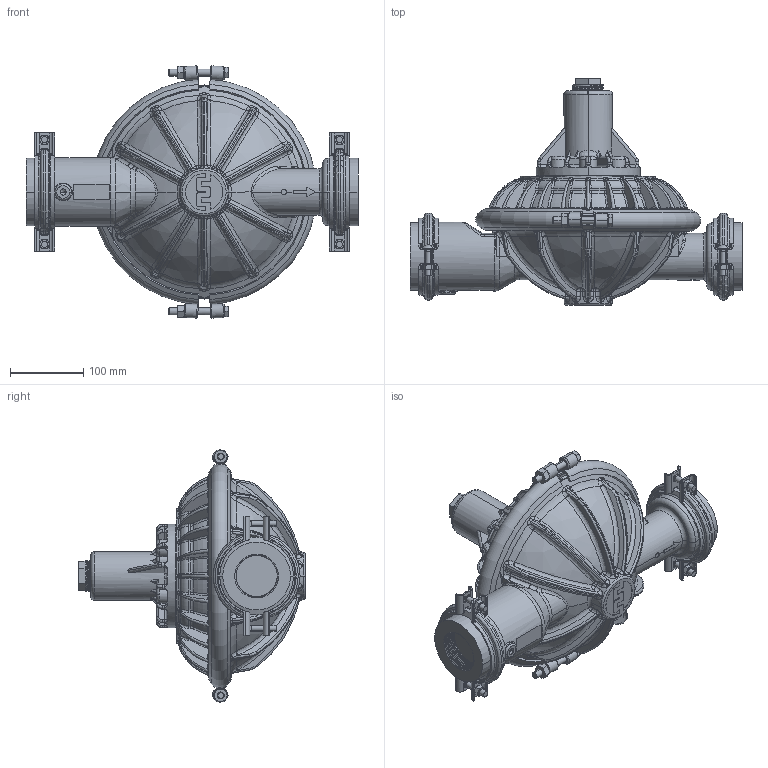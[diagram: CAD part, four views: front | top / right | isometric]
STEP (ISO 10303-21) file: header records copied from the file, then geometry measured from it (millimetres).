
FILE_DESCRIPTION (( 'STEP AP203' ), '1' );
FILE_NAME ('sd2_aap.STEP', '2022-06-20T08:32:19', ( '' ), ( '' ), 'SwSTEP 2.0', 'SolidWorks 2019', '' );
FILE_SCHEMA (( 'CONFIG_CONTROL_DESIGN' ));
Length unit declared in the file: inch
Products named in the file (1): sd2_aap
Bounding box: 454.66 x 310.32 x 345.37 mm (x, y, z)
Volume: 8301561.7 mm3; surface area: 574533.5 mm2
Topology: 1 solids, 1 shells, 2651 faces, 6409 edges, 3795 vertices
Faces by surface type: bspline 993, plane 472, cylinder 438, torus 364, cone 236, sphere 148
Entity records: 187038 total; most frequent: CARTESIAN_POINT 133599, ORIENTED_EDGE 12814, DIRECTION 9157, EDGE_CURVE 6407, AXIS2_PLACEMENT_3D 3991, VERTEX_POINT 3795, B_SPLINE_CURVE_WITH_KNOTS 2748, EDGE_LOOP 2706
